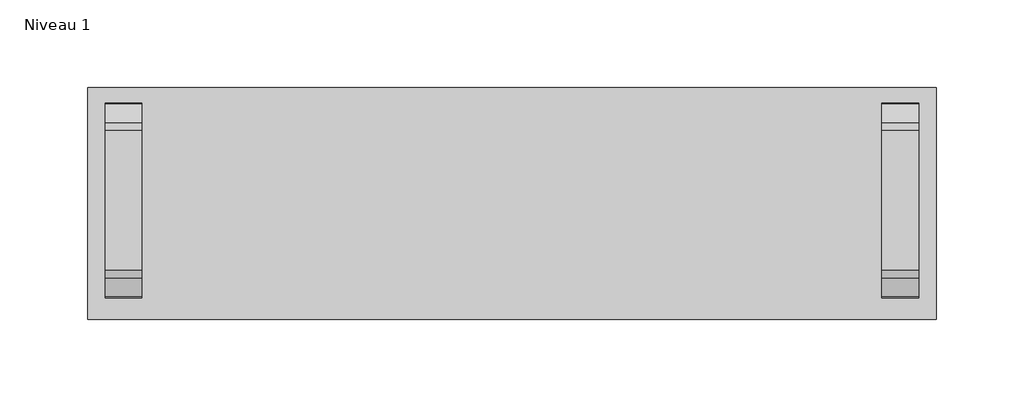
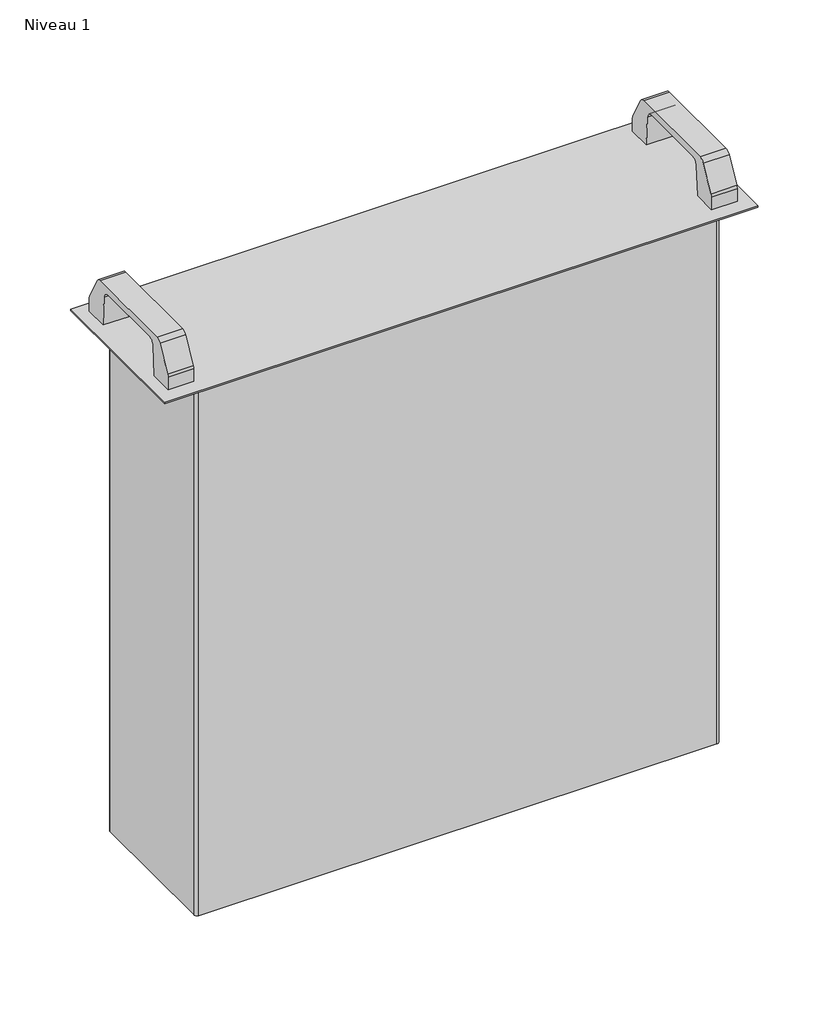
# One storey: 1 proxy.
"""IFC4 building model written with IfcOpenShell, lengths in millimetres."""

from ifc_helpers import new_model, si_unit, origin, place, context, project, spatial, transform, mapped, element, save
from components import titan_48v_25a_rack_titan_48v_25a_rack_15e581e9

model = new_model("IFC4")

# Units and contexts
model_context = context("Model", 3, world=origin())
ifc_project = project(units=[si_unit("LENGTHUNIT", "METRE", prefix="MILLI")], contexts=[model_context])

# Site, building, storey
site = spatial("IfcSite", under=ifc_project)
building = spatial("IfcBuilding", under=site)
storey = spatial("IfcBuildingStorey", under=building, Name="Niveau 1", Elevation=0.0)

# Proxy
placement = place(None, origin())
titan_48v_25a_rack_titan_48v_25a_rack_shape = titan_48v_25a_rack_titan_48v_25a_rack_15e581e9(model_context)
element("IfcBuildingElementProxy", 1, Name="TITAN 48V 25A RACK : TITAN 48V 25A RACK", ObjectType="TITAN 48V 25A RACK : TITAN 48V 25A RACK", at=placement, inside=storey, context=model_context, shape_type="MappedRepresentation", body=[
    mapped(titan_48v_25a_rack_titan_48v_25a_rack_shape, transform((-6636.973183, 3419.6627467, 0.0), x_axis=(1.0, 0.0, 0.0), y_axis=(0.0, 1.0, 0.0), z_axis=(0.0, 0.0, 1.0))),
])

save(model, "model.ifc")
